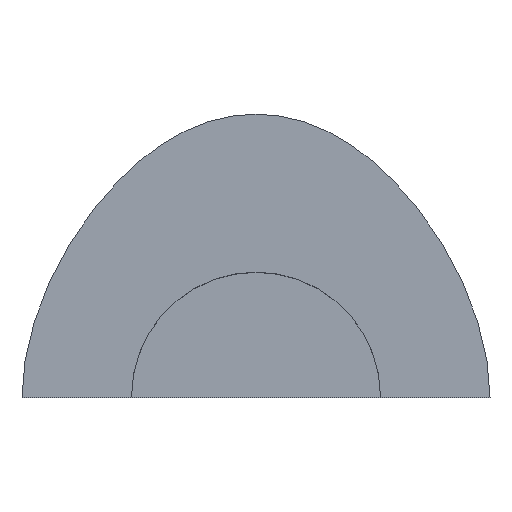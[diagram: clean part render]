
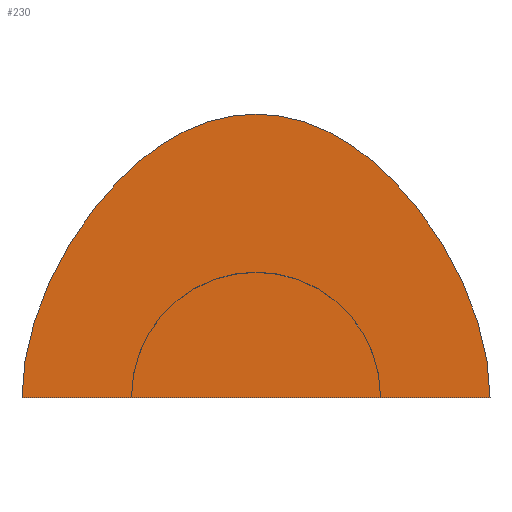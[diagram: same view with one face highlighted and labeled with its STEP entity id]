
A CAD part, top view. The second image highlights one B-rep face of the part: STEP entity #230.
In plain terms, the highlighted planar face has unit normal (0, 0, 1).
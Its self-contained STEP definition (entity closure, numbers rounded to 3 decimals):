
#193=CARTESIAN_POINT('Axis2P3D Location',(0.,46.188,0.)) ;
#198=CARTESIAN_POINT('Line Origine',(0.,0.,0.)) ;
#202=CARTESIAN_POINT('Vertex',(-94.,0.,0.)) ;
#204=CARTESIAN_POINT('Vertex',(94.,0.,0.)) ;
#208=CARTESIAN_POINT('Control Point',(0.,114.,0.)) ;
#209=CARTESIAN_POINT('Control Point',(29.551,114.,0.)) ;
#210=CARTESIAN_POINT('Control Point',(56.745,96.582,0.)) ;
#211=CARTESIAN_POINT('Control Point',(81.582,61.745,0.)) ;
#212=CARTESIAN_POINT('Control Point',(94.,29.551,0.)) ;
#213=CARTESIAN_POINT('Control Point',(94.,0.,0.)) ;
#214=CARTESIAN_POINT('Vertex',(0.,114.,0.)) ;
#218=CARTESIAN_POINT('Control Point',(0.,114.,0.)) ;
#219=CARTESIAN_POINT('Control Point',(-29.551,114.,0.)) ;
#220=CARTESIAN_POINT('Control Point',(-56.745,96.582,0.)) ;
#221=CARTESIAN_POINT('Control Point',(-81.582,61.745,0.)) ;
#222=CARTESIAN_POINT('Control Point',(-94.,29.551,0.)) ;
#223=CARTESIAN_POINT('Control Point',(-94.,0.,0.)) ;
#194=DIRECTION('Axis2P3D Direction',(0.,0.,1.)) ;
#195=DIRECTION('Axis2P3D XDirection',(1.,0.,0.)) ;
#199=DIRECTION('Vector Direction',(1.,0.,0.)) ;
#196=AXIS2_PLACEMENT_3D('Plane Axis2P3D',#193,#194,#195) ;
#226=ORIENTED_EDGE('',*,*,#206,.T.) ;
#227=ORIENTED_EDGE('',*,*,#216,.T.) ;
#228=ORIENTED_EDGE('',*,*,#224,.T.) ;
#200=VECTOR('Line Direction',#199,1.) ;
#230=ADVANCED_FACE('Fill.1',(#229),#197,.T.) ;
#207=B_SPLINE_CURVE_WITH_KNOTS('',5,(#208,#209,#210,#211,#212,#213),.UNSPECIFIED.,.F.,.U.,(6,6),(0.,147.757),.UNSPECIFIED.) ;
#217=B_SPLINE_CURVE_WITH_KNOTS('',5,(#218,#219,#220,#221,#222,#223),.UNSPECIFIED.,.F.,.U.,(6,6),(0.,147.757),.UNSPECIFIED.) ;
#206=EDGE_CURVE('',#203,#205,#201,.T.) ;
#216=EDGE_CURVE('',#205,#215,#207,.F.) ;
#224=EDGE_CURVE('',#215,#203,#217,.T.) ;
#225=EDGE_LOOP('',(#226,#227,#228)) ;
#229=FACE_OUTER_BOUND('',#225,.T.) ;
#201=LINE('Line',#198,#200) ;
#197=PLANE('',#196) ;
#203=VERTEX_POINT('',#202) ;
#205=VERTEX_POINT('',#204) ;
#215=VERTEX_POINT('',#214) ;
